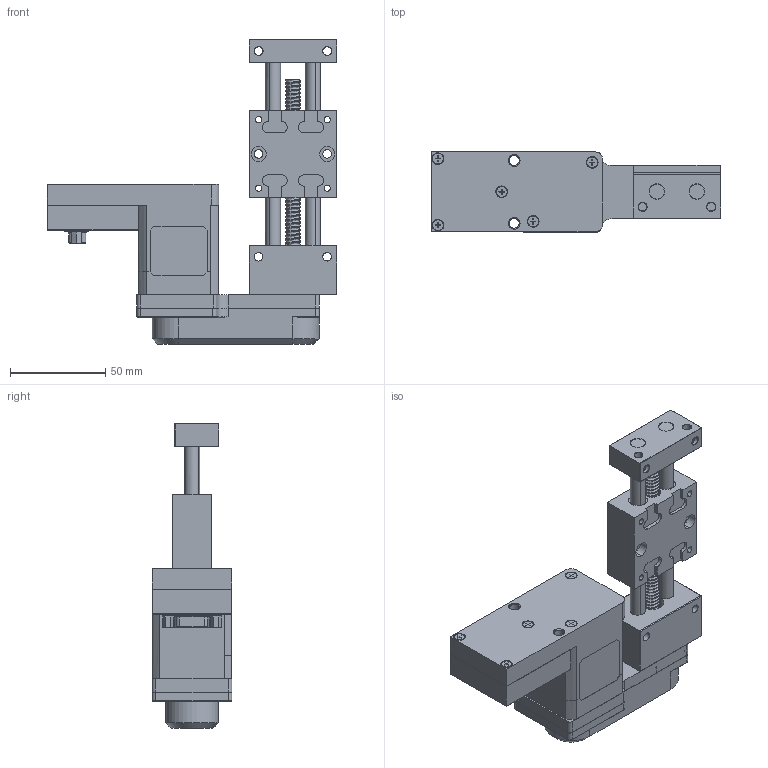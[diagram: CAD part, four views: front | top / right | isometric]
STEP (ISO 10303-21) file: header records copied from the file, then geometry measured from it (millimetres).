
FILE_DESCRIPTION (( 'STEP AP203' ), '1' );
FILE_NAME ('MPT5008-AS-S.STEP', '2015-12-11T10:06:29', ( '' ), ( '' ), 'SwSTEP 2.0', 'SolidWorks 2014', '' );
FILE_SCHEMA (( 'CONFIG_CONTROL_DESIGN' ));
Length unit declared in the file: millimetre
Products named in the file (5): MPT5008-000-01-Festteil-AS; MPT08-000-02-Schlitten-komplett; MPT0812-002-Antrieb seitlich; Schrittmotor-mit-Steuerung-GSMS17_n_Standard; MPT5008-AS-S
Assembly tree (4 placements, depth 2):
  MPT5008-AS-S
    MPT5008-000-01-Festteil-AS
    MPT08-000-02-Schlitten-komplett
    MPT0812-002-Antrieb seitlich
    Schrittmotor-mit-Steuerung-GSMS17_n_Standard
Bounding box: 152 x 42 x 160 mm (x, y, z)
Volume: 131645.8 mm3; surface area: 99013.5 mm2
Topology: 4 solids, 29 shells, 2162 faces, 5699 edges, 3630 vertices
Faces by surface type: plane 916, cylinder 831, cone 251, bspline 90, torus 59, sphere 15
Entity records: 107053 total; most frequent: CARTESIAN_POINT 54272, ORIENTED_EDGE 11226, DIRECTION 10586, EDGE_CURVE 5629, AXIS2_PLACEMENT_3D 3836, VERTEX_POINT 3615, VECTOR 2914, LINE 2914
